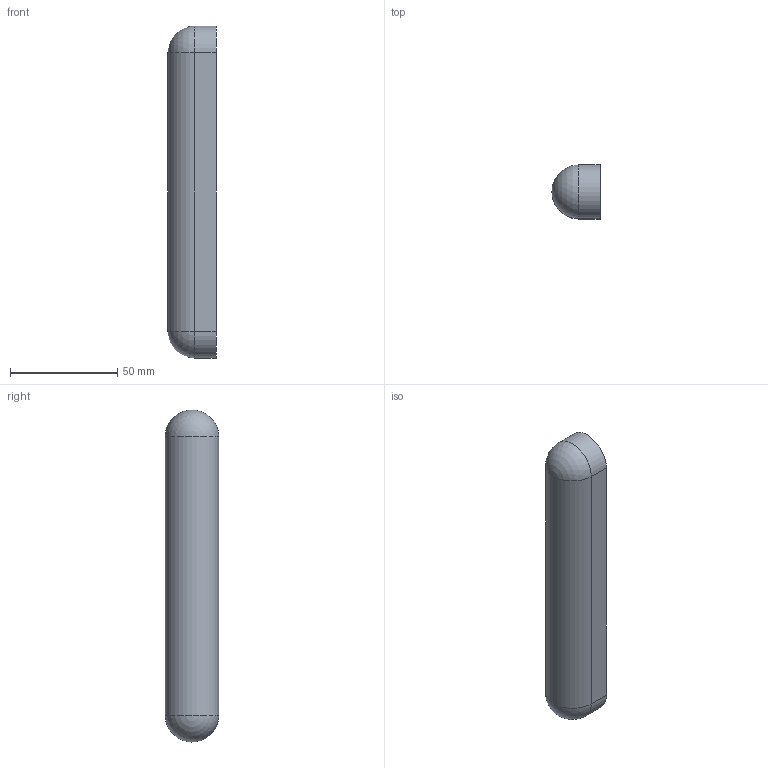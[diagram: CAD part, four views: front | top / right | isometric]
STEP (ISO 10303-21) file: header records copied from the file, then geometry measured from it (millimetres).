
FILE_DESCRIPTION(('STEP AP242'), '1');
FILE_NAME('Çàãëóøêà ôèêñàòîðà', '', ('UNSPECIFIED'), ('UNSPECIFIED'), 'C3D Converter', 'C3D Toolkit', '');
FILE_SCHEMA(('AP242_MANAGED_MODEL_BASED_3D_ENGINEERING_MIM_LF { 1 0 10303 442 1 1 4 }'));
Length unit declared in the file: millimetre
Bounding box: 22.5 x 25 x 155 mm (x, y, z)
Volume: 70013.2 mm3; surface area: 14344.1 mm2
Topology: 1 solids, 1 shells, 14 faces, 27 edges, 16 vertices
Faces by surface type: plane 6, cylinder 6, sphere 2
Full cylindrical faces by diameter (mm): 12 x3
Entity records: 372 total; most frequent: DIRECTION 66, CARTESIAN_POINT 53, ORIENTED_EDGE 44, AXIS2_PLACEMENT_3D 29, EDGE_CURVE 22, EDGE_LOOP 20, VERTEX_POINT 16, ADVANCED_FACE 14
